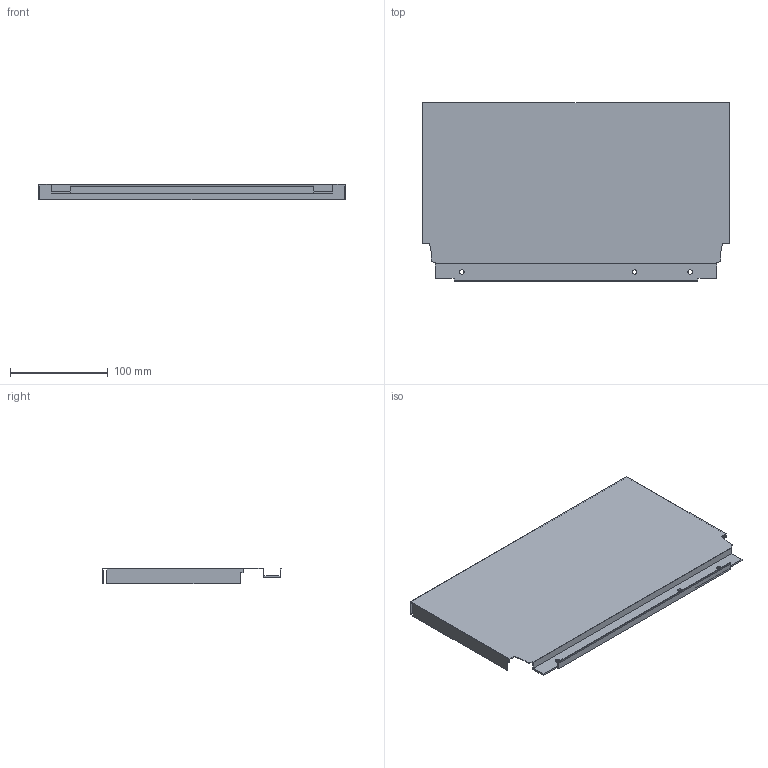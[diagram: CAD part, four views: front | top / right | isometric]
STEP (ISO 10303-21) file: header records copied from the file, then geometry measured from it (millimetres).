
FILE_DESCRIPTION (( 'STEP AP214' ), '1' );
FILE_NAME ('_DWD_XP Stahlrückwand_H182_KAB400_S18.step', '2010-07-08T12:57:53', ( 'grass' ), ( '' ), 'SwSTEP 2.0', 'SolidWorks 2010', '' );
FILE_SCHEMA (( 'AUTOMOTIVE_DESIGN' ));
Length unit declared in the file: millimetre
Products named in the file (1): _DWD_XP Stahlrückwand_H182_KAB400_S18
Bounding box: 313 x 182.49 x 16 mm (x, y, z)
Volume: 59635.5 mm3; surface area: 139209.7 mm2
Topology: 1 solids, 1 shells, 46 faces, 132 edges, 88 vertices
Faces by surface type: plane 40, cylinder 6
Entity records: 1534 total; most frequent: CARTESIAN_POINT 267, ORIENTED_EDGE 264, DIRECTION 238, EDGE_CURVE 132, LINE 120, VECTOR 120, VERTEX_POINT 88, AXIS2_PLACEMENT_3D 59
